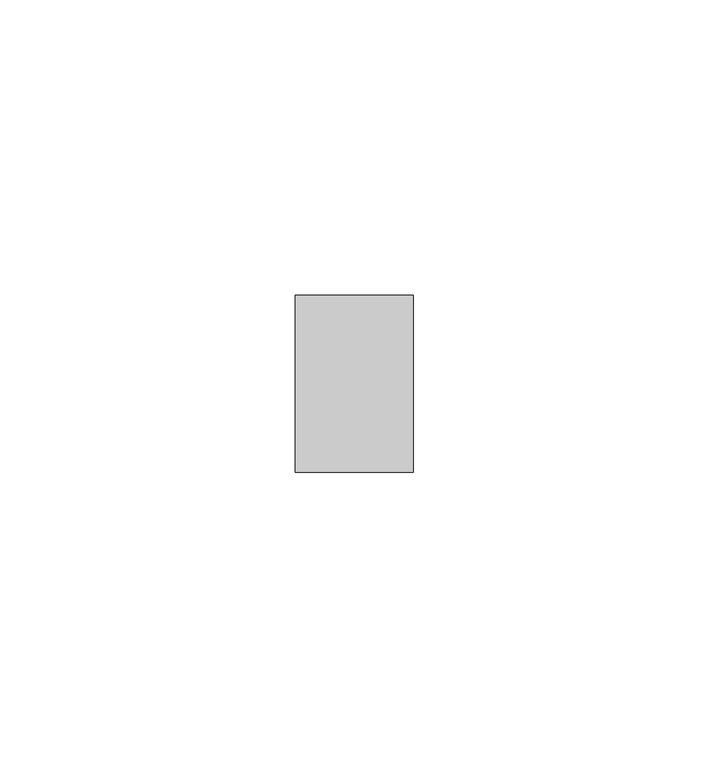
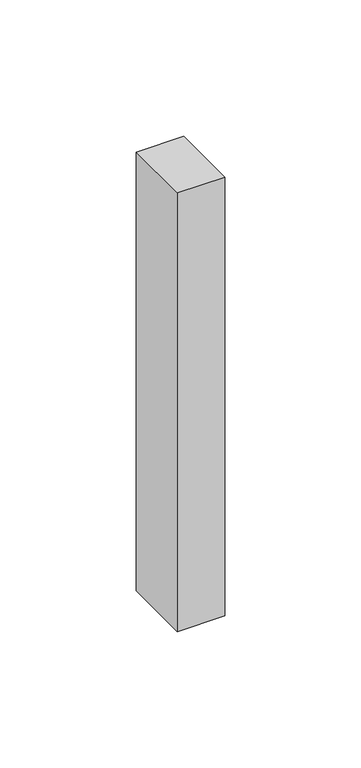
"""IFC4 building model written with IfcOpenShell, lengths in millimetres: member geometry, Прямоугольный импост : Квадрат 10 мм - Зазор между навесными плитами."""

from ifc_helpers import new_model, si_unit, frame, origin, place, context, project, spatial, polyline, outline, extrude, source, transform, mapped, element, save


def member_8212d135(model_context):
    return source(origin(), model_context, "Body", "SweptSolid", [
        extrude(outline(polyline([(10.0, 15.0), (10.0, -15.0), (-10.0, -15.0), (-10.0, 15.0), (10.0, 15.0)])), frame((0.0, 0.0, -196.4659379), z_axis=(0.0, 0.0, 1.0), x_axis=(1.0, 0.0, 0.0)), (0.0, 0.0, 1.0), 196.4659379),
    ])


if __name__ == "__main__":
    model = new_model("IFC4")
    model_context = context("Model", 3, world=origin())
    ifc_project = project(units=[si_unit("LENGTHUNIT", "METRE", prefix="MILLI")], contexts=[model_context])
    site = spatial("IfcSite", under=ifc_project)
    building = spatial("IfcBuilding", under=site)
    placement = place(None, origin())
    member_shape = member_8212d135(model_context)
    element("IfcMember", 1, ObjectType="Прямоугольный импост : Квадрат 10 мм - Зазор между навесными плитами", at=placement, inside=building, context=model_context, shape_type="MappedRepresentation", body=[
        mapped(member_shape, transform((0.0, 0.0, 0.0), x_axis=(1.0, 0.0, 0.0), y_axis=(0.0, 1.0, 0.0), z_axis=(0.0, 0.0, 1.0))),
    ])
    save(model, "model.ifc")
